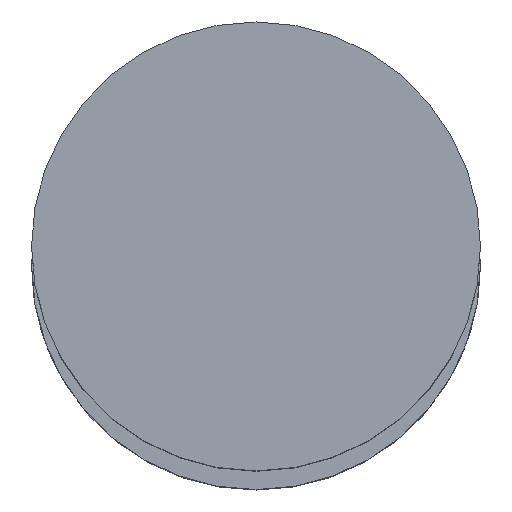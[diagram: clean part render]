
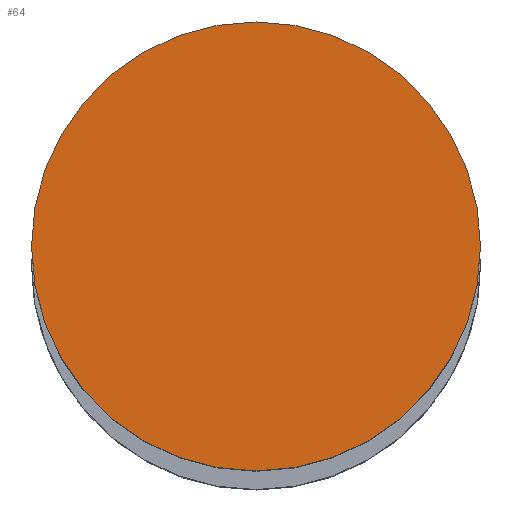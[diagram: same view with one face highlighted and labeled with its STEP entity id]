
A CAD part, top view. The second image highlights one B-rep face of the part: STEP entity #64.
In plain terms, the highlighted planar face has unit normal (0, 0, 1).
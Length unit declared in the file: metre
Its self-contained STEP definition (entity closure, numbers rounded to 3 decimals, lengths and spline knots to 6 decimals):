
#64=ADVANCED_FACE('25:217',(#136),#137,.T.);
#136=FACE_OUTER_BOUND('',#225,.T.);
#137=PLANE('',#226);
#225=EDGE_LOOP('',(#317,#318));
#226=AXIS2_PLACEMENT_3D('',#319,#320,#321);
#317=ORIENTED_EDGE('',*,*,#496,.F.);
#318=ORIENTED_EDGE('',*,*,#497,.F.);
#319=CARTESIAN_POINT('',(0.0,0.0,3.404));
#320=DIRECTION('',(0.0,0.0,1.0));
#321=DIRECTION('',(1.0,0.0,0.0));
#496=EDGE_CURVE('',#583,#584,#585,.F.);
#497=EDGE_CURVE('',#584,#583,#586,.F.);
#583=VERTEX_POINT('',#708);
#584=VERTEX_POINT('',#709);
#585=CIRCLE('',#710,0.0155);
#586=CIRCLE('',#711,0.0155);
#708=CARTESIAN_POINT('',(-0.015592,0.000095,3.404));
#709=CARTESIAN_POINT('',(0.015408,0.000095,3.404));
#710=AXIS2_PLACEMENT_3D('',#839,#840,#841);
#711=AXIS2_PLACEMENT_3D('',#842,#843,#844);
#839=CARTESIAN_POINT('',(-0.000092,0.000095,3.404));
#840=DIRECTION('',(0.0,0.0,1.0));
#841=DIRECTION('',(1.0,0.0,0.0));
#842=CARTESIAN_POINT('',(-0.000092,0.000095,3.404));
#843=DIRECTION('',(0.0,0.0,1.0));
#844=DIRECTION('',(1.0,0.0,0.0));
